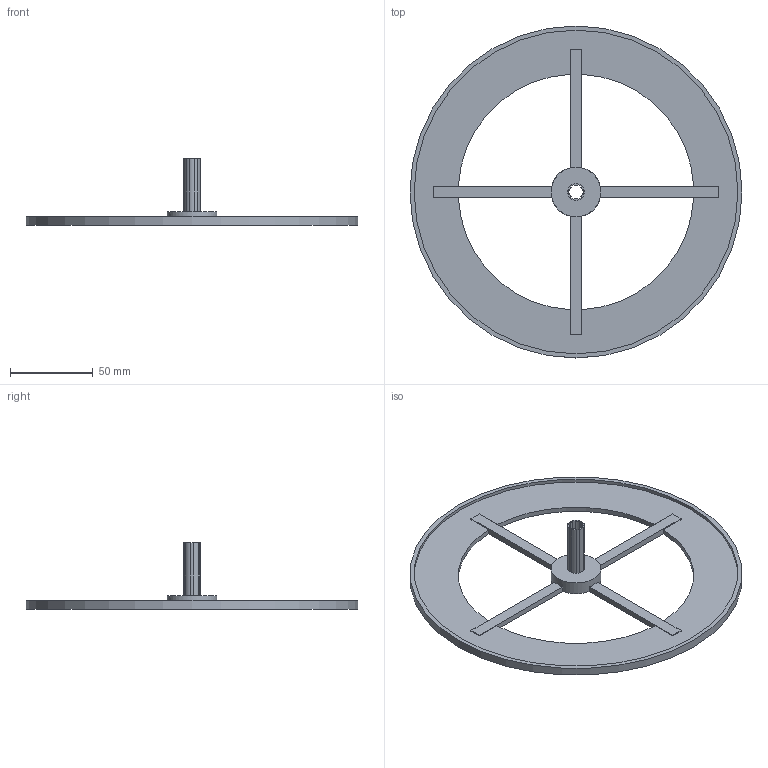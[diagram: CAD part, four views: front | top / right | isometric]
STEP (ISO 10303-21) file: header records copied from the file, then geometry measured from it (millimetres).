
FILE_DESCRIPTION(('Open CASCADE Model'),'2;1');
FILE_NAME('Open CASCADE Shape Model','2026-10-27T17:14:29',('Author'),( 'Open CASCADE'),'Open CASCADE STEP processor 8.0','build123d', 'Unknown');
FILE_SCHEMA(('AUTOMOTIVE_DESIGN { 1 0 10303 214 1 1 1 1 }'));
Length unit declared in the file: millimetre
Products named in the file (1): COMPOUND
Bounding box: 200 x 200 x 40 mm (x, y, z)
Volume: 61389.3 mm3; surface area: 45917.5 mm2
Topology: 1 solids, 1 shells, 53 faces, 156 edges, 104 vertices
Faces by surface type: plane 39, cylinder 14
Full cylindrical faces by diameter (mm): 10 x1, 30 x1, 195 x1, 200 x1
Entity records: 3765 total; most frequent: CARTESIAN_POINT 784, DIRECTION 509, ORIENTED_EDGE 312, PCURVE 312, DEFINITIONAL_REPRESENTATION 312, LINE 304, VECTOR 304, EDGE_CURVE 156
